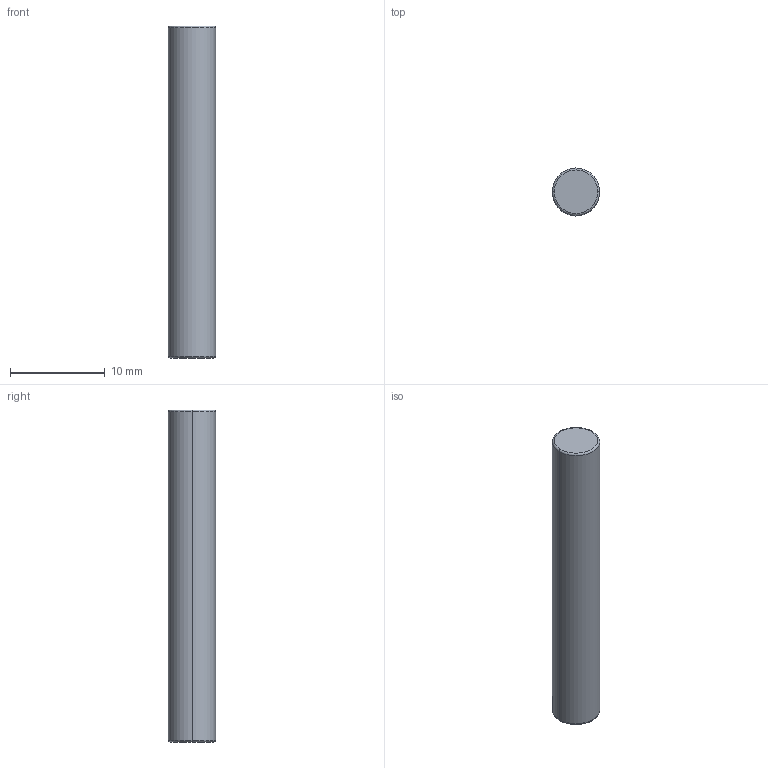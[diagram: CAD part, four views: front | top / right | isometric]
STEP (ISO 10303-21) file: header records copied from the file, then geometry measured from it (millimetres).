
FILE_DESCRIPTION (( 'STEP AP214' ), '1' );
FILE_NAME ('stange_kurz.STEP', '2022-10-28T09:44:11', ( '' ), ( '' ), 'SwSTEP 2.0', 'SolidWorks 2022', '' );
FILE_SCHEMA (( 'AUTOMOTIVE_DESIGN' ));
Length unit declared in the file: millimetre
Products named in the file (1): stange_kurz
Bounding box: 5 x 5 x 35 mm (x, y, z)
Volume: 687 mm3; surface area: 586.3 mm2
Topology: 1 solids, 1 shells, 8 faces, 14 edges, 8 vertices
Faces by surface type: torus 4, cylinder 2, plane 2
Entity records: 254 total; most frequent: DIRECTION 44, CARTESIAN_POINT 31, ORIENTED_EDGE 28, AXIS2_PLACEMENT_3D 21, EDGE_CURVE 14, CIRCLE 12, ADVANCED_FACE 8, VERTEX_POINT 8
